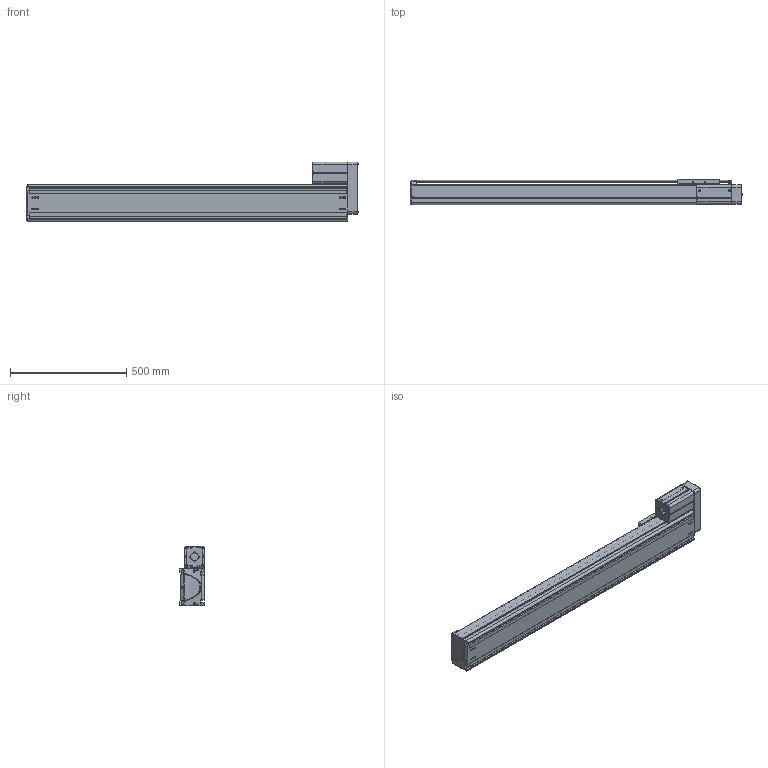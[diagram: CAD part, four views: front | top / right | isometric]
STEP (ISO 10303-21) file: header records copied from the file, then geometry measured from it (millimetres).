
FILE_DESCRIPTION((''),'2;1');
FILE_NAME('BE50F-UR-M_N-B0_IGS_PRT','2017-06-18T',(' '),(''),'PRO/ENGINEER BY PARAMETRIC TECHNOLOGY CORPORATION, 2015030','PRO/ENGINEER BY PARAMETRIC TECHNOLOGY CORPORATION, 2015030','');
FILE_SCHEMA(('CONFIG_CONTROL_DESIGN'));
Length unit declared in the file: millimetre
Products named in the file (1): BE50F-UR-M_N-B0_IGS_PRT
Bounding box: 1425.88 x 110 x 257 mm (x, y, z)
Volume: 5747975.7 mm3; surface area: 2375015.1 mm2
Topology: 6 solids, 140 shells, 2269 faces, 6220 edges, 4074 vertices
Faces by surface type: plane 1008, cylinder 987, cone 135, torus 59, bspline 48, sphere 32
Entity records: 75578 total; most frequent: CARTESIAN_POINT 17357, DIRECTION 12155, ORIENTED_EDGE 11852, EDGE_CURVE 6178, AXIS2_PLACEMENT_3D 4345, VERTEX_POINT 4070, VECTOR 3465, LINE 3465
